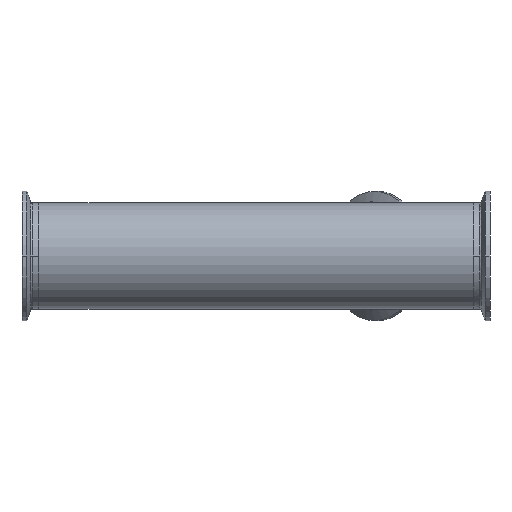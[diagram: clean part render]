
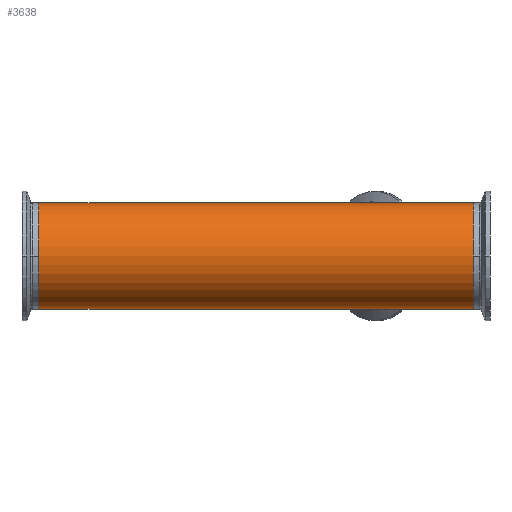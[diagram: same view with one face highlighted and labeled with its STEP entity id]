
A CAD part, front view. The second image highlights one B-rep face of the part: STEP entity #3638.
In plain terms, the highlighted cylindrical face has radius 31.75 mm (diameter 63.5 mm), a partial arc.
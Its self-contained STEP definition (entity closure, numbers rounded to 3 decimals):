
#92 = ORIENTED_EDGE ( 'NONE', *, *, #1832, .T. ) ;
#114 = DIRECTION ( 'NONE',  ( 0., 0., -1. ) ) ;
#130 = DIRECTION ( 'NONE',  ( 1., 0., 0. ) ) ;
#197 = CARTESIAN_POINT ( 'NONE',  ( 0., 0., -31.75 ) ) ;
#216 = DIRECTION ( 'NONE',  ( 1., 0., 0. ) ) ;
#243 = CARTESIAN_POINT ( 'NONE',  ( -40.8, 0., 31.75 ) ) ;
#278 = CARTESIAN_POINT ( 'NONE',  ( -40.8, 0., 0. ) ) ;
#583 = LINE ( 'NONE', #1568, #3285 ) ;
#761 = FACE_OUTER_BOUND ( 'NONE', #1760, .T. ) ;
#810 = ORIENTED_EDGE ( 'NONE', *, *, #2021, .F. ) ;
#1152 = ORIENTED_EDGE ( 'NONE', *, *, #1694, .F. ) ;
#1180 = VECTOR ( 'NONE', #216, 1000. ) ;
#1315 = DIRECTION ( 'NONE',  ( -1., 0., 0. ) ) ;
#1386 = VERTEX_POINT ( 'NONE', #197 ) ;
#1445 = VERTEX_POINT ( 'NONE', #2458 ) ;
#1568 = CARTESIAN_POINT ( 'NONE',  ( -40.8, 0., -31.75 ) ) ;
#1585 = CYLINDRICAL_SURFACE ( 'NONE', #2749, 31.75 ) ;
#1634 = VECTOR ( 'NONE', #130, 1000. ) ;
#1664 = CARTESIAN_POINT ( 'NONE',  ( 218.6, 0., 31.75 ) ) ;
#1694 = EDGE_CURVE ( 'NONE', #1445, #4238, #3875, .T. ) ;
#1760 = EDGE_LOOP ( 'NONE', ( #1152, #1988, #92, #1870, #2702, #810 ) ) ;
#1791 = DIRECTION ( 'NONE',  ( 1., 0., 0. ) ) ;
#1805 = CIRCLE ( 'NONE', #3452, 31.75 ) ;
#1832 = EDGE_CURVE ( 'NONE', #3988, #1386, #3534, .T. ) ;
#1834 = AXIS2_PLACEMENT_3D ( 'NONE', #3437, #1315, #3795 ) ;
#1870 = ORIENTED_EDGE ( 'NONE', *, *, #1914, .T. ) ;
#1914 = EDGE_CURVE ( 'NONE', #1386, #3685, #583, .T. ) ;
#1988 = ORIENTED_EDGE ( 'NONE', *, *, #2254, .T. ) ;
#1991 = CARTESIAN_POINT ( 'NONE',  ( -40.8, 0., -31.75 ) ) ;
#2021 = EDGE_CURVE ( 'NONE', #4238, #2848, #2144, .T. ) ;
#2027 = DIRECTION ( 'NONE',  ( 0., 0., -1. ) ) ;
#2091 = CARTESIAN_POINT ( 'NONE',  ( 218.6, 0., -31.75 ) ) ;
#2144 = LINE ( 'NONE', #3017, #1180 ) ;
#2242 = DIRECTION ( 'NONE',  ( 1., 0., 0. ) ) ;
#2254 = EDGE_CURVE ( 'NONE', #1445, #3988, #1805, .T. ) ;
#2458 = CARTESIAN_POINT ( 'NONE',  ( -40.8, 0., 31.75 ) ) ;
#2702 = ORIENTED_EDGE ( 'NONE', *, *, #2722, .T. ) ;
#2722 = EDGE_CURVE ( 'NONE', #3685, #2848, #4064, .T. ) ;
#2749 = AXIS2_PLACEMENT_3D ( 'NONE', #278, #3819, #2027 ) ;
#2848 = VERTEX_POINT ( 'NONE', #1664 ) ;
#3017 = CARTESIAN_POINT ( 'NONE',  ( -40.8, 0., 31.75 ) ) ;
#3285 = VECTOR ( 'NONE', #4070, 1000. ) ;
#3437 = CARTESIAN_POINT ( 'NONE',  ( 218.6, 0., 0. ) ) ;
#3452 = AXIS2_PLACEMENT_3D ( 'NONE', #4376, #2242, #114 ) ;
#3534 = LINE ( 'NONE', #4043, #1634 ) ;
#3638 = ADVANCED_FACE ( 'NONE', ( #761 ), #1585, .T. ) ;
#3685 = VERTEX_POINT ( 'NONE', #2091 ) ;
#3795 = DIRECTION ( 'NONE',  ( 0., 0., -1. ) ) ;
#3819 = DIRECTION ( 'NONE',  ( 1., 0., 0. ) ) ;
#3875 = LINE ( 'NONE', #243, #3975 ) ;
#3975 = VECTOR ( 'NONE', #1791, 1000. ) ;
#3988 = VERTEX_POINT ( 'NONE', #1991 ) ;
#4043 = CARTESIAN_POINT ( 'NONE',  ( -40.8, 0., -31.75 ) ) ;
#4064 = CIRCLE ( 'NONE', #1834, 31.75 ) ;
#4070 = DIRECTION ( 'NONE',  ( 1., 0., 0. ) ) ;
#4110 = CARTESIAN_POINT ( 'NONE',  ( 0., 0., 31.75 ) ) ;
#4238 = VERTEX_POINT ( 'NONE', #4110 ) ;
#4376 = CARTESIAN_POINT ( 'NONE',  ( -40.8, 0., 0. ) ) ;
